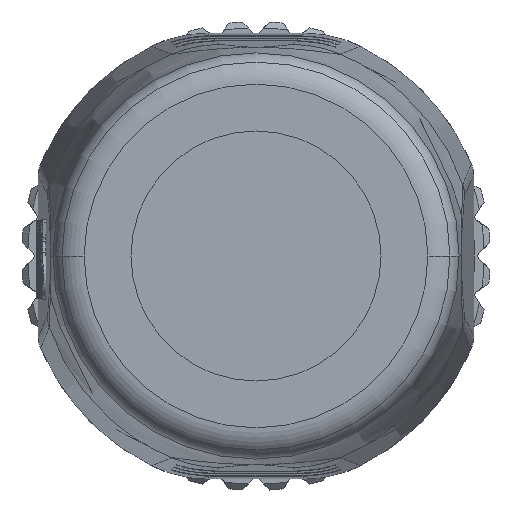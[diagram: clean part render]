
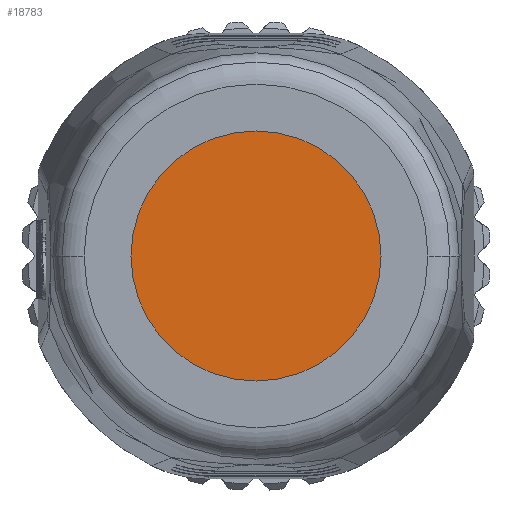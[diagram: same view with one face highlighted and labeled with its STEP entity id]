
A CAD part, front view. The second image highlights one B-rep face of the part: STEP entity #18783.
In plain terms, the highlighted planar face has unit normal (0, -1, 0).
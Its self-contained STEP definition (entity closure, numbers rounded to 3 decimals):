
#6485=CARTESIAN_POINT('',(0.,-65.6,0.));
#6486=DIRECTION('',(0.,1.,0.));
#6487=DIRECTION('',(0.,0.,-1.));
#6488=AXIS2_PLACEMENT_3D('',#6485,#6486,#6487);
#6490=CARTESIAN_POINT('',(0.,-65.6,0.));
#6491=DIRECTION('',(0.,1.,0.));
#6492=DIRECTION('',(0.,0.,1.));
#6493=AXIS2_PLACEMENT_3D('',#6490,#6491,#6492);
#10334=CARTESIAN_POINT('',(0.,-65.6,4.));
#10335=CARTESIAN_POINT('',(0.,-65.6,-4.));
#10336=VERTEX_POINT('',#10334);
#10337=VERTEX_POINT('',#10335);
#18774=CARTESIAN_POINT('',(0.,-65.6,0.));
#18775=DIRECTION('',(0.,-1.,0.));
#18776=DIRECTION('',(0.,0.,-1.));
#18777=AXIS2_PLACEMENT_3D('',#18774,#18775,#18776);
#18778=PLANE('',#18777);
#18779=ORIENTED_EDGE('',*,*,#18768,.T.);
#18780=ORIENTED_EDGE('',*,*,#18754,.T.);
#18781=EDGE_LOOP('',(#18779,#18780));
#18782=FACE_OUTER_BOUND('',#18781,.F.);
#6489=CIRCLE('',#6488,4.);
#6494=CIRCLE('',#6493,4.);
#18754=EDGE_CURVE('',#10336,#10337,#6494,.T.);
#18768=EDGE_CURVE('',#10337,#10336,#6489,.T.);
#18783=ADVANCED_FACE('',(#18782),#18778,.T.);
